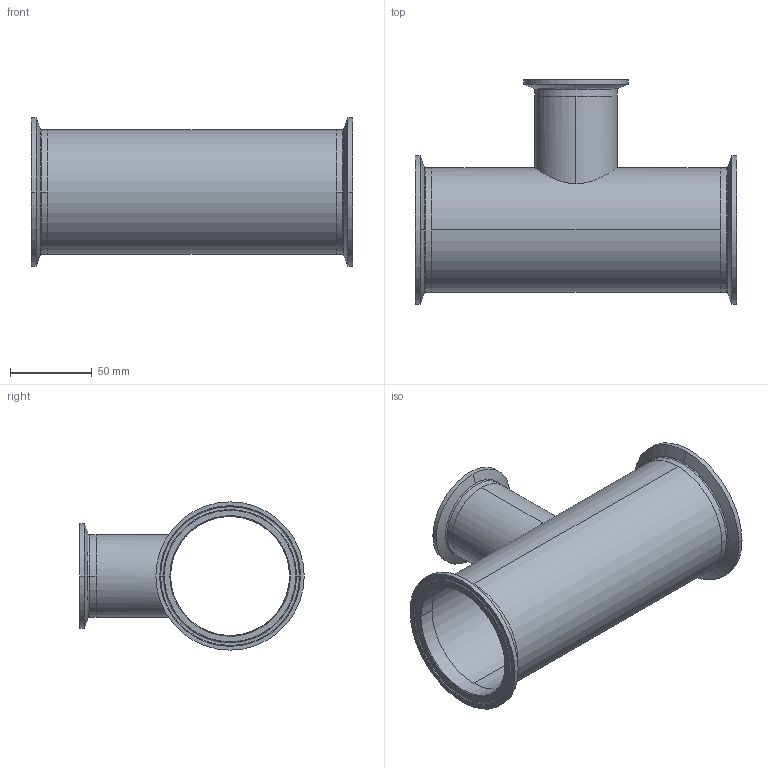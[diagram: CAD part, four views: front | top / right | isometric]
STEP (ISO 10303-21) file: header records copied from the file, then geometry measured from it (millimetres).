
FILE_DESCRIPTION (( 'STEP AP214' ), '1' );
FILE_NAME ('TEG7R6L3.0x2.0-...STEP', '2016-05-24T07:18:17', ( 'eran' ), ( '' ), 'SwSTEP 2.0', 'SolidWorks 2016', '' );
FILE_SCHEMA (( 'AUTOMOTIVE_DESIGN' ));
Length unit declared in the file: millimetre
Products named in the file (1): TEG7R6L3.0x2.0-..
Bounding box: 196.8 x 137.55 x 90.91 mm (x, y, z)
Volume: 107640.7 mm3; surface area: 118820.4 mm2
Topology: 4 solids, 4 shells, 86 faces, 214 edges, 140 vertices
Faces by surface type: bspline 30, cylinder 26, cone 18, plane 12
Entity records: 4982 total; most frequent: CARTESIAN_POINT 2867, DIRECTION 454, ORIENTED_EDGE 428, EDGE_CURVE 214, AXIS2_PLACEMENT_3D 205, CIRCLE 148, VERTEX_POINT 140, EDGE_LOOP 100
